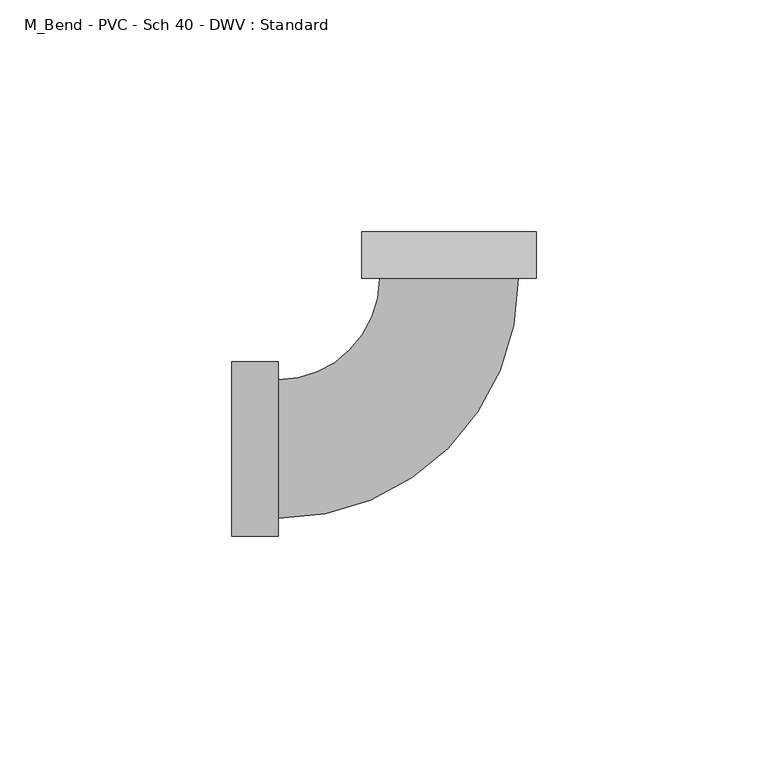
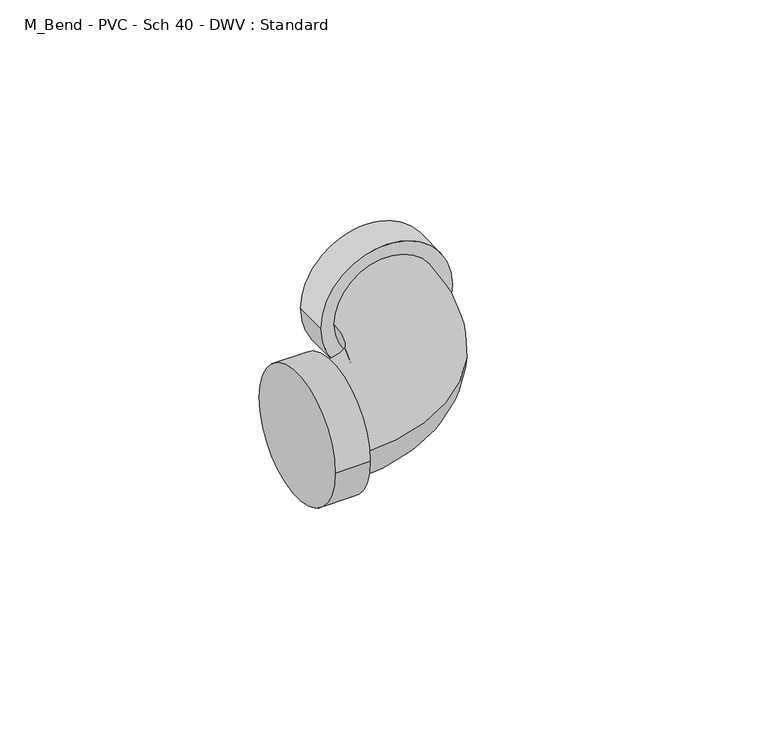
"""IFC4 building model written with IfcOpenShell, lengths in millimetres: pipe fitting geometry, M_Bend - PVC - Sch 40 - DWV : Standard."""

from ifc_helpers import new_model, si_unit, point, frame, origin, place, context, project, spatial, circle_curve, ellipse_curve, trimmed, source, transform, mapped, element, save
from ifc_brep_helpers import plane_surface, cylinder_surface, revolved_surface, advanced_brep


def m_bend_pvc_sch_40_dwv_standard_58f888c4(model_context):
    return source(origin(), model_context, "Body", "AdvancedBrep", [
        advanced_brep(
        [(-46.8140625, -18.7871094, 0.0), (-46.8140625, 18.7871094, 0.0), (-36.8140625, -18.7871094, 0.0), (-36.8140625, 18.7871094, 0.0), (-36.8140625, -14.9640625, 0.0), (-36.8140625, 14.9640625, 0.0), (-14.9640832, 36.8140541, 0.0), (14.9640418, 36.8140709, 0.0), (18.7870887, 36.8140731, 0.0), (-18.7871301, 36.8140519, 0.0), (18.7870831, 46.8140731, 0.0), (-18.7871357, 46.8140519, 0.0)],
        [
            (0, 1, circle_curve(frame((-46.8140625, 0.0, 0.0), z_axis=(-1.0, 0.0, 0.0), x_axis=(0.0, 1.0, 0.0)), 18.7871094)),
            (1, 0, circle_curve(frame((-46.8140625, 0.0, 0.0), z_axis=(-1.0, 0.0, 0.0), x_axis=(0.0, 1.0, 0.0)), 18.7871094)),
            (2, 3, circle_curve(frame((-36.8140625, 0.0, 0.0), z_axis=(1.0, 0.0, 0.0), x_axis=(0.0, 1.0, 0.0)), 18.7871094)),
            (3, 2, circle_curve(frame((-36.8140625, 0.0, 0.0), z_axis=(1.0, 0.0, 0.0), x_axis=(0.0, 1.0, 0.0)), 18.7871094)),
            (4, 5, circle_curve(frame((-36.8140625, 0.0, 0.0), z_axis=(-1.0, 0.0, 0.0), x_axis=(0.0, 1.0, 0.0)), 14.9640625)),
            (5, 4, circle_curve(frame((-36.8140625, 0.0, 0.0), z_axis=(-1.0, 0.0, 0.0), x_axis=(0.0, 1.0, 0.0)), 14.9640625)),
            (0, 2),
            (3, 1),
            (6, 5, circle_curve(frame((-36.8140625, 36.8140418, 0.0), z_axis=(0.0, 0.0, -1.0), x_axis=(0.0, -1.0, 0.0)), 21.8499793)),
            (4, 7, circle_curve(frame((-36.8140625, 36.8140418, 0.0), z_axis=(0.0, 0.0, 1.0), x_axis=(0.0, -1.0, 0.0)), 51.7781043)),
            (7, 6, circle_curve(frame((-2.07e-05, 36.8140625, 0.0), z_axis=(5.622534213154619e-07, -0.9999999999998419, 0.0), x_axis=(-0.9999999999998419, -5.622534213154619e-07, 0.0)), 14.9640625)),
            (6, 7, circle_curve(frame((-2.07e-05, 36.8140625, 0.0), z_axis=(5.622534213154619e-07, -0.9999999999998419, 0.0), x_axis=(-0.9999999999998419, -5.622534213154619e-07, 0.0)), 14.9640625)),
            (8, 9, circle_curve(frame((-2.07e-05, 36.8140625, 0.0), z_axis=(5.622534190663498e-07, -0.999999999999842, 0.0), x_axis=(-0.999999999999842, -5.622534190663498e-07, 0.0)), 18.7871094)),
            (9, 8, circle_curve(frame((-2.07e-05, 36.8140625, 0.0), z_axis=(5.622534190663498e-07, -0.999999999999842, 0.0), x_axis=(-0.999999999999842, -5.622534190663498e-07, 0.0)), 18.7871094)),
            (10, 11, circle_curve(frame((-2.63e-05, 46.8140625, 0.0), z_axis=(-5.622534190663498e-07, 0.999999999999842, 0.0), x_axis=(-0.999999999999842, -5.622534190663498e-07, 0.0)), 18.7871094)),
            (11, 10, circle_curve(frame((-2.63e-05, 46.8140625, 0.0), z_axis=(-5.622534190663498e-07, 0.999999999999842, 0.0), x_axis=(-0.999999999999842, -5.622534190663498e-07, 0.0)), 18.7871094)),
            (8, 10),
            (11, 9),
        ],
        [
            plane_surface(frame((-46.8140625, 0.0, 0.0), z_axis=(-1.0, 0.0, 0.0), x_axis=(0.0, 0.0, 1.0))),
            plane_surface(frame((-36.8140625, 0.0, 0.0), z_axis=(1.0, 0.0, 0.0), x_axis=(0.0, 0.0, 1.0))),
            cylinder_surface(frame((-46.8140625, 0.0, 0.0), z_axis=(-1.0, 0.0, 0.0), x_axis=(0.0, 1.0, 0.0)), 18.7871094),
            revolved_surface(trimmed(ellipse_curve(frame((-36.8140625, 0.0, 0.0), z_axis=(-1.0, 0.0, 0.0), x_axis=(0.0, 1.0, 0.0)), 14.9640625, 14.9640625), [point((-36.8140625, -14.9640625, 0.0))], [point((-36.8140625, 14.9640625, 0.0))], True, "CARTESIAN"), (-36.8140625, 36.8140418, 0.0), (0.0, 0.0, 1.0)),
            revolved_surface(trimmed(ellipse_curve(frame((-36.8140625, 0.0, 0.0), z_axis=(-1.0, 0.0, 0.0), x_axis=(0.0, 1.0, 0.0)), 14.9640625, 14.9640625), [point((-36.8140625, 14.9640625, 0.0))], [point((-36.8140625, -14.9640625, 0.0))], True, "CARTESIAN"), (-36.8140625, 36.8140418, 0.0), (0.0, 0.0, 1.0)),
            plane_surface(frame((-2.07e-05, 36.8140625, 0.0), z_axis=(5.622534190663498e-07, -0.999999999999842, 0.0), x_axis=(0.0, 0.0, 1.0))),
            plane_surface(frame((-2.63e-05, 46.8140625, 0.0), z_axis=(-5.622534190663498e-07, 0.999999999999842, 0.0), x_axis=(0.0, 0.0, 1.0))),
            cylinder_surface(frame((-2.07e-05, 36.8140625, 0.0), z_axis=(5.622534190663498e-07, -0.999999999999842, 0.0), x_axis=(-0.999999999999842, -5.622534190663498e-07, 0.0)), 18.7871094),
        ],
        [
            (0, [[1, 2]]),
            (1, [[3, 4], [5, 6]]),
            (2, [[-1, 7, -4, 8]]),
            (2, [[-2, -8, -3, -7]]),
            (3, [[9, -5, 10, 11]]),
            (4, [[-9, 12, -10, -6]]),
            (5, [[13, 14], [-11, -12]]),
            (6, [[15, 16]]),
            (7, [[-13, 17, -16, 18]]),
            (7, [[-14, -18, -15, -17]]),
        ],
    ),
    ])


if __name__ == "__main__":
    model = new_model("IFC4")
    model_context = context("Model", 3, world=origin())
    ifc_project = project(units=[si_unit("LENGTHUNIT", "METRE", prefix="MILLI")], contexts=[model_context])
    site = spatial("IfcSite", under=ifc_project)
    building = spatial("IfcBuilding", under=site)
    placement = place(None, origin())
    m_bend_pvc_sch_40_dwv_standard_shape = m_bend_pvc_sch_40_dwv_standard_58f888c4(model_context)
    element("IfcPipeFitting", 1, ObjectType="M_Bend - PVC - Sch 40 - DWV : Standard", at=placement, inside=building, context=model_context, shape_type="MappedRepresentation", body=[
        mapped(m_bend_pvc_sch_40_dwv_standard_shape, transform((0.0, 0.0, 0.0), x_axis=(1.0, 0.0, 0.0), y_axis=(0.0, 1.0, 0.0), z_axis=(0.0, 0.0, 1.0))),
    ])
    save(model, "model.ifc")
